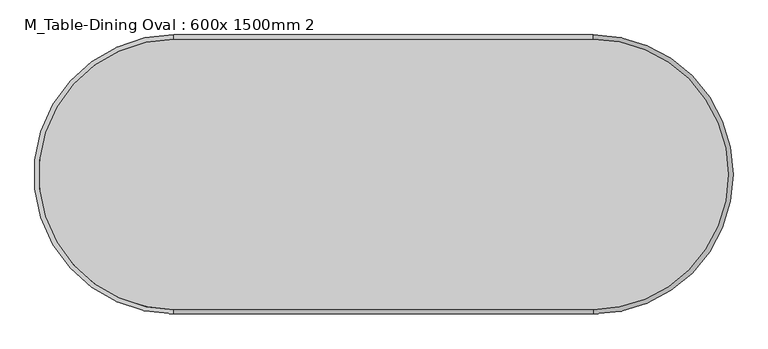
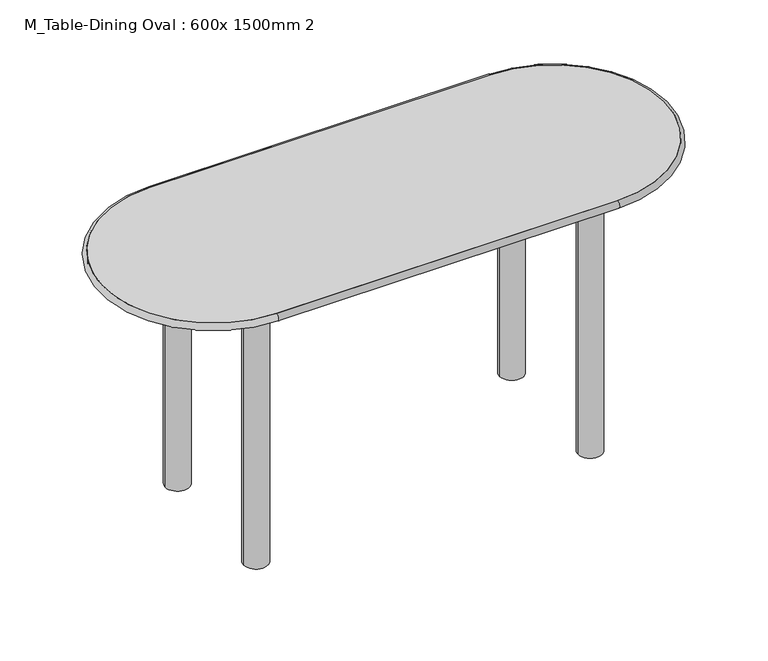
"""IFC4 building model written with IfcOpenShell, lengths in millimetres: furniture geometry, M_Table-Dining Oval : 600x 1500mm 2."""

from ifc_helpers import new_model, si_unit, point, frame, frame_2d, origin, origin_with_axes, place, context, project, spatial, polyline, circle_curve, ellipse_curve, trimmed, segment, composite_curve, outline, extrude, source, transform, mapped, element, save
from ifc_brep_helpers import plane_surface, cylinder_surface, revolved_surface, advanced_brep


def m_table_dining_oval_600x_1500mm_2_050df572(model_context):
    return source(origin(), model_context, "Body", "SolidModel", [
        advanced_brep(
        [(-851.8196721, -648.5733607, 762.0), (-851.8196721, -648.5733607, 742.95), (48.1803279, -648.5733607, 742.95), (48.1803279, -648.5733607, 762.0), (48.1803279, -67.6233607, 762.0), (48.1803279, -67.6233607, 742.95), (-851.8196721, -67.6233607, 742.95), (-851.8196721, -67.6233607, 762.0)],
        [
            (0, 1, circle_curve(frame((-851.8196721, -648.5733607, 752.475), z_axis=(1.0, 0.0, 0.0), x_axis=(0.0, 1.0, 0.0)), 9.525)),
            (1, 2),
            (2, 3, circle_curve(frame((48.1803279, -648.5733607, 752.475), z_axis=(-1.0, 0.0, 0.0), x_axis=(0.0, 1.0, 0.0)), 9.525)),
            (3, 0),
            (1, 0),
            (3, 2),
            (4, 3, circle_curve(frame((48.1803279, -358.0983607, 762.0), z_axis=(0.0, 0.0, -1.0), x_axis=(0.0, -1.0, 0.0)), 290.475)),
            (2, 5, circle_curve(frame((48.1803279, -358.0983607, 742.95), z_axis=(0.0, 0.0, 1.0), x_axis=(0.0, -1.0, 0.0)), 290.475)),
            (5, 4, circle_curve(frame((48.1803279, -67.6233607, 752.475), z_axis=(1.0, 0.0, 0.0), x_axis=(0.0, -1.0, 0.0)), 9.525)),
            (4, 5),
            (5, 6),
            (6, 7, circle_curve(frame((-851.8196721, -67.6233607, 752.475), z_axis=(1.0, 0.0, 0.0), x_axis=(0.0, -1.0, 0.0)), 9.525)),
            (7, 4),
            (7, 6),
            (0, 7, circle_curve(frame((-851.8196721, -358.0983607, 762.0), z_axis=(0.0, 0.0, -1.0), x_axis=(0.0, 1.0, 0.0)), 290.475)),
            (6, 1, circle_curve(frame((-851.8196721, -358.0983607, 742.95), z_axis=(0.0, 0.0, 1.0), x_axis=(0.0, 1.0, 0.0)), 290.475)),
        ],
        [
            cylinder_surface(frame((-851.8196721, -648.5733607, 752.475), z_axis=(-1.0, 0.0, 0.0), x_axis=(0.0, 1.0, 0.0)), 9.525),
            plane_surface(frame((-851.8196721, -648.5733607, 762.0), z_axis=(0.0, 1.0, 0.0), x_axis=(1.0, 0.0, 0.0))),
            revolved_surface(trimmed(ellipse_curve(frame((48.1803279, -648.5733607, 752.475), z_axis=(-1.0, 0.0, 0.0), x_axis=(0.0, 1.0, 0.0)), 9.525, 9.525), [point((48.1803279, -648.5733607, 742.95))], [point((48.1803279, -648.5733607, 762.0))], True, "CARTESIAN"), (48.1803279, -358.0983607, 0.0), (0.0, 0.0, 1.0)),
            revolved_surface(polyline([(48.1803279, -648.5733607, 762.0), (48.1803279, -648.5733607, 742.95)]), (48.1803279, -358.0983607, 0.0), (0.0, 0.0, 1.0)),
            cylinder_surface(frame((48.1803279, -67.6233607, 752.475), z_axis=(1.0, 0.0, 0.0), x_axis=(0.0, -1.0, 0.0)), 9.525),
            plane_surface(frame((48.1803279, -67.6233607, 762.0), z_axis=(0.0, -1.0, 0.0), x_axis=(-1.0, 0.0, 0.0))),
            revolved_surface(trimmed(ellipse_curve(frame((-851.8196721, -67.6233607, 752.475), z_axis=(1.0, 0.0, 0.0), x_axis=(0.0, -1.0, 0.0)), 9.525, 9.525), [point((-851.8196721, -67.6233607, 742.95))], [point((-851.8196721, -67.6233607, 762.0))], True, "CARTESIAN"), (-851.8196721, -358.0983607, 0.0), (0.0, 0.0, 1.0)),
            revolved_surface(polyline([(-851.8196721, -67.62336069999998, 762.0), (-851.8196721, -67.62336069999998, 742.95)]), (-851.8196721, -358.0983607, 0.0), (0.0, 0.0, 1.0)),
        ],
        [
            (0, [[1, 2, 3, 4]]),
            (1, [[5, -4, 6, -2]]),
            (2, [[7, -3, 8, 9]]),
            (3, [[-8, -6, -7, 10]]),
            (4, [[-9, 11, 12, 13]]),
            (5, [[-10, -13, 14, -11]]),
            (6, [[15, -12, 16, -1]]),
            (7, [[-16, -14, -15, -5]]),
        ],
    ),
        extrude(outline(composite_curve([segment(trimmed(circle_curve(frame_2d((-843.5446721, -178.7483607)), 31.75), [point((-875.2946721, -178.7483607))], [point((-811.7946721, -178.7483607))], False, "CARTESIAN"), True, "CONTINUOUS"), segment(trimmed(circle_curve(frame_2d((-843.5446721, -178.7483607)), 31.75), [point((-811.7946721, -178.7483607))], [point((-875.2946721, -178.7483607))], False, "CARTESIAN"), True, "CONTINUOUS")], self_intersect=False)), origin_with_axes(), (0.0, 0.0, 1.0), 742.95),
        extrude(outline(composite_curve([segment(trimmed(circle_curve(frame_2d((-843.5446721, -537.4483607)), 31.75), [point((-875.2946721, -537.4483607))], [point((-811.7946721, -537.4483607))], False, "CARTESIAN"), True, "CONTINUOUS"), segment(trimmed(circle_curve(frame_2d((-843.5446721, -537.4483607)), 31.75), [point((-811.7946721, -537.4483607))], [point((-875.2946721, -537.4483607))], False, "CARTESIAN"), True, "CONTINUOUS")], self_intersect=False)), origin_with_axes(), (0.0, 0.0, 1.0), 742.95),
        extrude(outline(composite_curve([segment(trimmed(circle_curve(frame_2d((39.9053279, -178.7483607)), 31.75), [point((8.1553279, -178.7483607))], [point((71.6553279, -178.7483607))], False, "CARTESIAN"), True, "CONTINUOUS"), segment(trimmed(circle_curve(frame_2d((39.9053279, -178.7483607)), 31.75), [point((71.6553279, -178.7483607))], [point((8.1553279, -178.7483607))], False, "CARTESIAN"), True, "CONTINUOUS")], self_intersect=False)), origin_with_axes(), (0.0, 0.0, 1.0), 742.95),
        extrude(outline(composite_curve([segment(trimmed(circle_curve(frame_2d((39.9053279, -537.4483607)), 31.75), [point((8.1553279, -537.4483607))], [point((71.6553279, -537.4483607))], False, "CARTESIAN"), True, "CONTINUOUS"), segment(trimmed(circle_curve(frame_2d((39.9053279, -537.4483607)), 31.75), [point((71.6553279, -537.4483607))], [point((8.1553279, -537.4483607))], False, "CARTESIAN"), True, "CONTINUOUS")], self_intersect=False)), origin_with_axes(), (0.0, 0.0, 1.0), 742.95),
        extrude(outline(polyline([(58.9553279, -159.6983607), (58.9553279, -556.4983607), (-862.5946721, -556.4983607), (-862.5946721, -159.6983607), (58.9553279, -159.6983607)]), holes=[polyline([(39.9053279, -178.7483607), (-843.5446721, -178.7483607), (-843.5446721, -537.4483607), (39.9053279, -537.4483607), (39.9053279, -178.7483607)])]), frame((0.0, 0.0, 692.15), z_axis=(0.0, 0.0, 1.0), x_axis=(1.0, 0.0, 0.0)), (0.0, 0.0, 1.0), 50.8),
        extrude(outline(composite_curve([segment(polyline([(-851.8196721, -67.6233607), (48.1803279, -67.6233607)]), True, "CONTINUOUS"), segment(trimmed(circle_curve(frame_2d((48.1803279, -358.0983607)), 290.475), [point((48.1803279, -67.6233607))], [point((338.6553279, -358.0983607))], False, "CARTESIAN"), True, "CONTINUOUS"), segment(trimmed(circle_curve(frame_2d((48.1803279, -358.0983607)), 290.475), [point((338.6553279, -358.0983607))], [point((48.1803279, -648.5733607))], False, "CARTESIAN"), True, "CONTINUOUS"), segment(polyline([(48.1803279, -648.5733607), (-851.8196721, -648.5733607)]), True, "CONTINUOUS"), segment(trimmed(circle_curve(frame_2d((-851.8196721, -358.0983607)), 290.475), [point((-851.8196721, -648.5733607))], [point((-1142.2946721, -358.0983607))], False, "CARTESIAN"), True, "CONTINUOUS"), segment(trimmed(circle_curve(frame_2d((-851.8196721, -358.0983607)), 290.475), [point((-1142.2946721, -358.0983607))], [point((-851.8196721, -67.6233607))], False, "CARTESIAN"), True, "CONTINUOUS")], self_intersect=False)), frame((0.0, 0.0, 742.95), z_axis=(0.0, 0.0, 1.0), x_axis=(1.0, 0.0, 0.0)), (0.0, 0.0, 1.0), 19.05),
    ])


if __name__ == "__main__":
    model = new_model("IFC4")
    model_context = context("Model", 3, world=origin())
    ifc_project = project(units=[si_unit("LENGTHUNIT", "METRE", prefix="MILLI")], contexts=[model_context])
    site = spatial("IfcSite", under=ifc_project)
    building = spatial("IfcBuilding", under=site)
    placement = place(None, origin())
    m_table_dining_oval_600x_1500mm_2_shape = m_table_dining_oval_600x_1500mm_2_050df572(model_context)
    element("IfcFurniture", 1, ObjectType="M_Table-Dining Oval : 600x 1500mm 2", at=placement, inside=building, context=model_context, shape_type="MappedRepresentation", body=[
        mapped(m_table_dining_oval_600x_1500mm_2_shape, transform((0.0, 0.0, 0.0), x_axis=(1.0, 0.0, 0.0), y_axis=(0.0, 1.0, 0.0), z_axis=(0.0, 0.0, 1.0))),
    ])
    save(model, "model.ifc")
